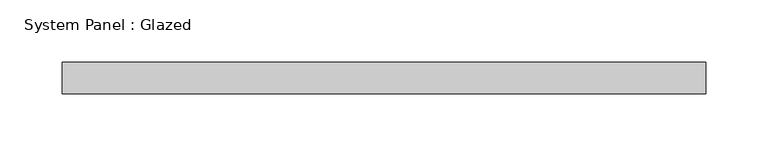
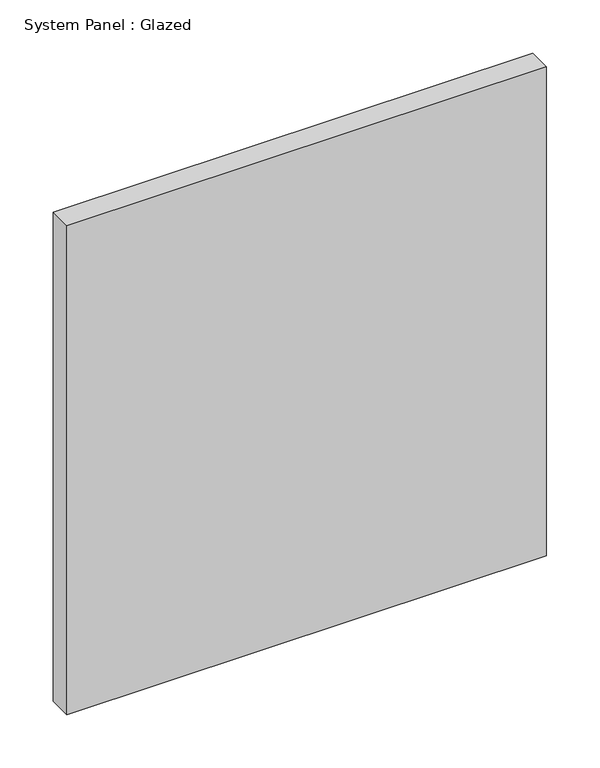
"""IFC4 building model written with IfcOpenShell, lengths in millimetres: plate geometry, System Panel : Glazed."""

import ifcopenshell
import ifcopenshell.guid

model = None  # the IFC model being written
_history = None  # IfcOwnerHistory: only IFC2X3 demands one
_inside = {}  # id of a spatial element -> (the spatial element, [elements in it])
_under = {}  # id of a project, library or spatial element -> (it, [spatial elements below it])
_declared = {}  # id of a project -> (the project, [libraries it declares])
_typed = {}  # id of a type object -> (the type object, [elements of that type])
_made_of = {}  # id of a material, layer set ... -> (it, [elements and type objects made of it])


def new_model(schema):
    """Start an empty IFC model of exactly this schema.

    Asked for "IFC4X3", IfcOpenShell would pick the latest addendum, in which some entities
    have other attributes; the version numbers below select the first issue.
    IFC2X3 requires an IfcOwnerHistory on every rooted entity: one is made here for all.
    """
    global model, _history
    if schema == "IFC4X3":
        model = ifcopenshell.file(schema_version=(4, 3, 0, 0))
    else:
        model = ifcopenshell.file(schema=schema)
    _inside.clear()
    _under.clear()
    _declared.clear()
    _typed.clear()
    _made_of.clear()
    _history = None
    if model.schema == "IFC2X3":
        org = make("IfcOrganization", Name="unknown")
        user = make(
            "IfcPersonAndOrganization",
            ThePerson=make("IfcPerson", FamilyName="unknown"),
            TheOrganization=org,
        )
        app = make(
            "IfcApplication",
            ApplicationDeveloper=org,
            Version="unknown",
            ApplicationFullName="unknown",
            ApplicationIdentifier="unknown",
        )
        _history = make(
            "IfcOwnerHistory",
            OwningUser=user,
            OwningApplication=app,
            ChangeAction="ADDED",
            CreationDate=0,
        )
    return model


def make(cls, **values):
    """One entity of the class cls with the attributes given. An attribute that is None is left unset."""
    return model.create_entity(
        cls, **{name: value for name, value in values.items() if value is not None}
    )


def rooted(cls, **values):
    """An entity with a GlobalId (a new one), such as an element, a storey or a relation."""
    return make(cls, GlobalId=ifcopenshell.guid.new(), OwnerHistory=_history, **values)


def si_unit(unit_type, name, prefix=None):
    """IfcSIUnit, for example si_unit("LENGTHUNIT", "METRE", prefix="MILLI")."""
    return make("IfcSIUnit", UnitType=unit_type, Prefix=prefix, Name=name)


def assignment(units):
    """IfcUnitAssignment: the units of a project."""
    return None if units is None else make("IfcUnitAssignment", Units=units)


def point(xyz):
    """IfcCartesianPoint."""
    return None if xyz is None else make("IfcCartesianPoint", Coordinates=xyz)


def direction(xyz):
    """IfcDirection."""
    return None if xyz is None else make("IfcDirection", DirectionRatios=xyz)


def frame(location, z_axis=None, x_axis=None):
    """IfcAxis2Placement3D, a coordinate frame: its origin and axes. An axis left out is left unset."""
    return make(
        "IfcAxis2Placement3D",
        Location=point(location),
        Axis=direction(z_axis),
        RefDirection=direction(x_axis),
    )


def origin():
    """The frame at (0, 0, 0) with its axes left unset."""
    return frame((0.0, 0.0, 0.0))


def origin_with_axes():
    """The frame at (0, 0, 0) with the z axis (0, 0, 1) and the x axis (1, 0, 0) written out."""
    return frame((0.0, 0.0, 0.0), z_axis=(0.0, 0.0, 1.0), x_axis=(1.0, 0.0, 0.0))


def place(relative_to, where):
    """IfcLocalPlacement: puts the frame where relative to a parent placement (None: the world)."""
    return make(
        "IfcLocalPlacement", PlacementRelTo=relative_to, RelativePlacement=where
    )


def context(
    kind, dimensions, precision=None, world=None, true_north=None, identifier=None
):
    """IfcGeometricRepresentationContext, for example the 3D "Model" context."""
    return make(
        "IfcGeometricRepresentationContext",
        ContextIdentifier=identifier,
        ContextType=kind,
        CoordinateSpaceDimension=dimensions,
        Precision=precision,
        WorldCoordinateSystem=world,
        TrueNorth=true_north,
    )


def project(units=None, contexts=None):
    """IfcProject with its units and contexts."""
    return rooted(
        "IfcProject",
        Name="project",
        RepresentationContexts=contexts,
        UnitsInContext=assignment(units),
    )


def spatial(cls, under=None, at=None, **own):
    """A site, building, storey or space (cls), placed at a placement, below another one or the project."""
    s = rooted(cls, ObjectPlacement=at, **own)
    if under is not None:
        _under.setdefault(under.id(), (under, []))[1].append(s)
    return s


def polyline(points):
    """IfcPolyline through the points."""
    return make("IfcPolyline", Points=[point(p) for p in points])


def outline(outer, holes=None, kind="AREA"):
    """IfcArbitraryClosedProfileDef: a profile drawn as a closed curve; with holes, ...WithVoids."""
    if holes is None:
        return make("IfcArbitraryClosedProfileDef", ProfileType=kind, OuterCurve=outer)
    return make(
        "IfcArbitraryProfileDefWithVoids",
        ProfileType=kind,
        OuterCurve=outer,
        InnerCurves=holes,
    )


def extrude(swept, where, along, depth):
    """IfcExtrudedAreaSolid: the profile swept, set in the frame where, extruded along a direction by depth."""
    return make(
        "IfcExtrudedAreaSolid",
        SweptArea=swept,
        Position=where,
        ExtrudedDirection=direction(along),
        Depth=depth,
    )


def shape(context_of_items, identifier, shape_type, items):
    """IfcShapeRepresentation: the items that make up one representation, for example the "Body"."""
    return make(
        "IfcShapeRepresentation",
        ContextOfItems=context_of_items,
        RepresentationIdentifier=identifier,
        RepresentationType=shape_type,
        Items=items,
    )


def source(mapping_origin, context_of_items, identifier, shape_type, items):
    """IfcRepresentationMap: a shape defined once, which mapped items show again and again."""
    return make(
        "IfcRepresentationMap",
        MappingOrigin=mapping_origin,
        MappedRepresentation=shape(context_of_items, identifier, shape_type, items),
    )


def transform(
    local_origin,
    x_axis=None,
    y_axis=None,
    z_axis=None,
    scale=None,
    scale2=None,
    scale3=None,
    uniform=True,
):
    """IfcCartesianTransformationOperator3D, or its non-uniform kind. x_axis, y_axis, z_axis: its Axis1, 2, 3."""
    if uniform:
        return make(
            "IfcCartesianTransformationOperator3D",
            Axis1=direction(x_axis),
            Axis2=direction(y_axis),
            LocalOrigin=point(local_origin),
            Scale=scale,
            Axis3=direction(z_axis),
        )
    return make(
        "IfcCartesianTransformationOperator3DnonUniform",
        Axis1=direction(x_axis),
        Axis2=direction(y_axis),
        LocalOrigin=point(local_origin),
        Scale=scale,
        Axis3=direction(z_axis),
        Scale2=scale2,
        Scale3=scale3,
    )


def mapped(mapping_source, mapping_target):
    """IfcMappedItem: shows the shape of a source again, moved by a transform."""
    return make(
        "IfcMappedItem", MappingSource=mapping_source, MappingTarget=mapping_target
    )


def made_of(thing, what):
    """Note that an element or type object is made of a material, layer set ...; save() writes the relation."""
    if what is not None:
        _made_of.setdefault(what.id(), (what, []))[1].append(thing)
    return thing


def element(
    cls,
    number,
    at=None,
    inside=None,
    cuts=None,
    type_object=None,
    material=None,
    context=None,
    identifier="Body",
    shape_type=None,
    held_by="IfcProductDefinitionShape",
    body=None,
    shapes=None,
    **own,
):
    """One element of the class cls, such as IfcWall. Its Tag is "e" and its number.

    at: its placement. inside: the storey or other place that contains it. cuts: it is an
    opening in that element (IfcRelVoidsElement). A single representation is given by context,
    identifier, shape_type and body (its items); several are given by shapes. held_by: the class
    of the entity that holds the representations. save() writes the other relations.
    """
    e = rooted(cls, Tag="e%d" % number, ObjectPlacement=at, **own)
    if body is not None:
        shapes = [shape(context, identifier, shape_type, body)]
    if shapes is not None:
        e.Representation = make(held_by, Representations=shapes)
    if inside is not None:
        _inside.setdefault(inside.id(), (inside, []))[1].append(e)
    if cuts is not None:
        rooted(
            "IfcRelVoidsElement", RelatingBuildingElement=cuts, RelatedOpeningElement=e
        )
    if type_object is not None:
        _typed.setdefault(type_object.id(), (type_object, []))[1].append(e)
    return made_of(e, material)


def aggregate(whole, parts):
    """IfcRelAggregates: a whole, such as a stair, and the parts it consists of."""
    return rooted("IfcRelAggregates", RelatingObject=whole, RelatedObjects=parts)


def save(model, path):
    """Write the relations noted so far, then the file.

    IfcRelAggregates (storeys below a building ...), IfcRelContainedInSpatialStructure (elements
    in a storey), IfcRelDefinesByType, IfcRelAssociatesMaterial and IfcRelDeclares: one each for
    every whole, place, type object, material and project.
    """
    for whole, parts in _under.values():
        aggregate(whole, parts)
    for where, things in _inside.values():
        rooted(
            "IfcRelContainedInSpatialStructure",
            RelatedElements=things,
            RelatingStructure=where,
        )
    for kind, things in _typed.values():
        rooted("IfcRelDefinesByType", RelatedObjects=things, RelatingType=kind)
    for what, things in _made_of.values():
        rooted("IfcRelAssociatesMaterial", RelatedObjects=things, RelatingMaterial=what)
    for by, libraries in _declared.values():
        rooted("IfcRelDeclares", RelatingContext=by, RelatedDefinitions=libraries)
    model.write(path)


def system_panel_glazed_b8d6571b(model_context):
    return source(origin(), model_context, "Body", "SweptSolid", [
        extrude(outline(polyline([(259.08, -12.7), (-259.08, -12.7), (-259.08, 12.7), (259.08, 12.7), (259.08, -12.7)])), origin_with_axes(), (0.0, 0.0, 1.0), 558.8),
    ])


if __name__ == "__main__":
    model = new_model("IFC4")
    model_context = context("Model", 3, world=origin())
    ifc_project = project(units=[si_unit("LENGTHUNIT", "METRE", prefix="MILLI")], contexts=[model_context])
    site = spatial("IfcSite", under=ifc_project)
    building = spatial("IfcBuilding", under=site)
    placement = place(None, origin())
    system_panel_glazed_shape = system_panel_glazed_b8d6571b(model_context)
    element("IfcPlate", 1, ObjectType="System Panel : Glazed", at=placement, inside=building, context=model_context, shape_type="MappedRepresentation", body=[
        mapped(system_panel_glazed_shape, transform((0.0, 0.0, 0.0), x_axis=(1.0, 0.0, 0.0), y_axis=(0.0, 1.0, 0.0), z_axis=(0.0, 0.0, 1.0))),
    ])
    save(model, "model.ifc")
